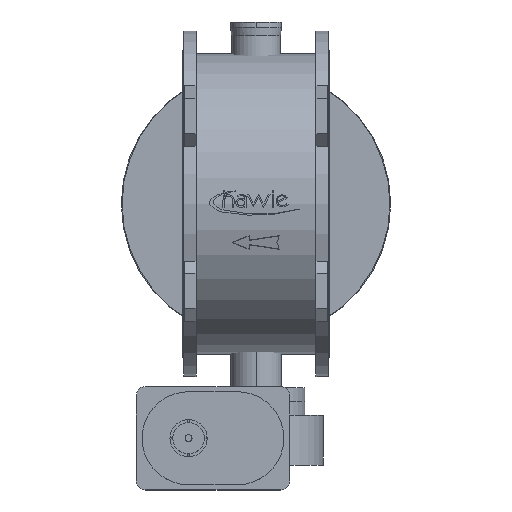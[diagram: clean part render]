
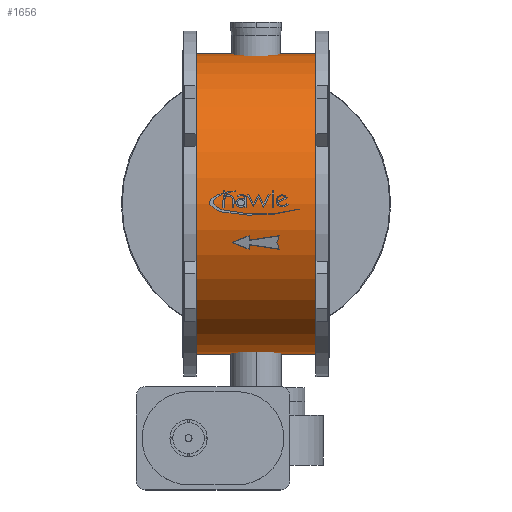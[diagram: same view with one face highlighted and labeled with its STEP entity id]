
A CAD part, top view. The second image highlights one B-rep face of the part: STEP entity #1656.
In plain terms, the highlighted cylindrical face has radius 646 mm (diameter 1292 mm), a partial arc.
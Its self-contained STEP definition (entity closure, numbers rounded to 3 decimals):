
#1656=ADVANCED_FACE('',(#3295),#3296,.T.);
#3295=FACE_OUTER_BOUND('',#5222,.T.);
#3296=CYLINDRICAL_SURFACE('',#5223,646.0);
#5222=EDGE_LOOP('',(#8476,#8477,#8478,#8479));
#5223=AXIS2_PLACEMENT_3D('',#8480,#8481,#8482);
#8476=ORIENTED_EDGE('',*,*,#11372,.T.);
#8477=ORIENTED_EDGE('',*,*,#11373,.T.);
#8478=ORIENTED_EDGE('',*,*,#11374,.T.);
#8479=ORIENTED_EDGE('',*,*,#10221,.T.);
#8480=CARTESIAN_POINT('',(-573.0,0.,0.0));
#8481=DIRECTION('',(1.0,0.,0.0));
#8482=DIRECTION('',(0.,-1.0,0.0));
#10221=EDGE_CURVE('',#11989,#11988,#11991,.T.);
#11372=EDGE_CURVE('',#11988,#13738,#13739,.T.);
#11373=EDGE_CURVE('',#13738,#13740,#13741,.T.);
#11374=EDGE_CURVE('',#13740,#11989,#13742,.T.);
#11988=VERTEX_POINT('',#14467);
#11989=VERTEX_POINT('',#14468);
#11991=CIRCLE('',#14470,646.0);
#13738=VERTEX_POINT('',#16647);
#13739=LINE('',#16648,#16649);
#13740=VERTEX_POINT('',#16650);
#13741=CIRCLE('',#16651,646.0);
#13742=LINE('',#16652,#16653);
#14467=CARTESIAN_POINT('',(-573.0,-646.0,0.0));
#14468=CARTESIAN_POINT('',(-573.0,646.0,0.));
#14470=AXIS2_PLACEMENT_3D('',#17358,#17359,#17360);
#16647=CARTESIAN_POINT('',(-57.0,-646.0,0.0));
#16648=CARTESIAN_POINT('',(-573.0,-646.0,0.));
#16649=VECTOR('',#19066,1.0);
#16650=CARTESIAN_POINT('',(-57.0,646.0,0.));
#16651=AXIS2_PLACEMENT_3D('',#19067,#19068,#19069);
#16652=CARTESIAN_POINT('',(-573.0,646.0,0.));
#16653=VECTOR('',#19070,1.0);
#17358=CARTESIAN_POINT('',(-573.0,0.,0.0));
#17359=DIRECTION('',(1.0,0.,0.0));
#17360=DIRECTION('',(0.,-1.0,0.0));
#19066=DIRECTION('',(1.0,0.,0.0));
#19067=CARTESIAN_POINT('',(-57.0,0.,0.0));
#19068=DIRECTION('',(-1.0,0.,0.0));
#19069=DIRECTION('',(0.,-1.0,0.0));
#19070=DIRECTION('',(-1.0,0.,-0.0));
